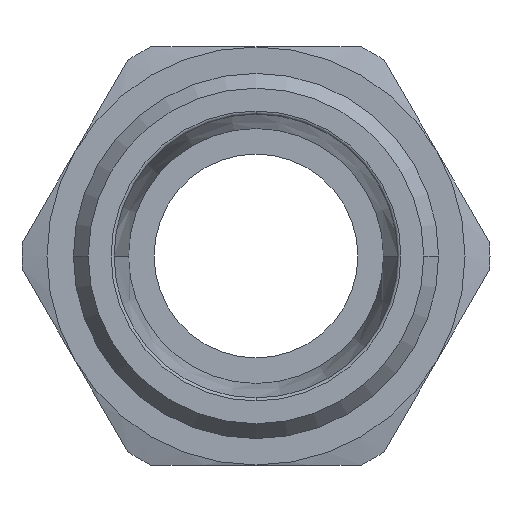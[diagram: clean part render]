
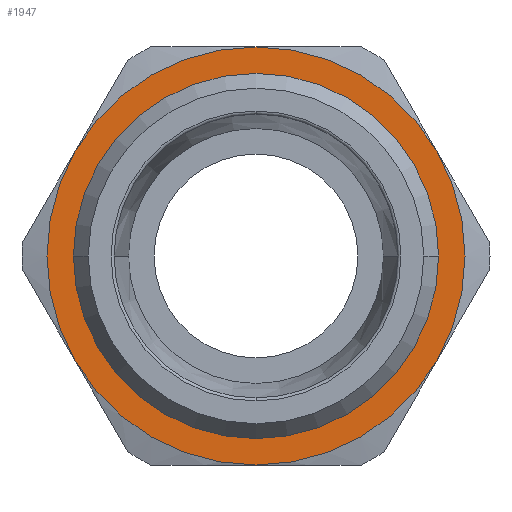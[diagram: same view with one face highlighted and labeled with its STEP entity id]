
A CAD part, left-side view. The second image highlights one B-rep face of the part: STEP entity #1947.
In plain terms, the highlighted planar face has unit normal (-1, 0, 0) as drawn and (0, 0, 1) by its records, which use the part's own axes.
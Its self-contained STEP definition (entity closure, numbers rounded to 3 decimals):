
#857=CARTESIAN_POINT('',(-17.65,0.,7.0));
#858=VERTEX_POINT('',#857);
#884=CARTESIAN_POINT('',(17.65,0.,7.0));
#885=VERTEX_POINT('',#884);
#893=CARTESIAN_POINT('',(0.,0.,7.0));
#894=DIRECTION('',(0.0,0.0,1.0));
#895=DIRECTION('',(-1.0,0.0,0.0));
#896=AXIS2_PLACEMENT_3D('',#893,#894,#895);
#897=CIRCLE('',#896,17.65);
#898=EDGE_CURVE('',#885,#858,#897,.T.);
#1827=CARTESIAN_POINT('',(0.,-17.65,7.));
#1828=VERTEX_POINT('',#1827);
#1829=CARTESIAN_POINT('',(0.,0.,7.0));
#1830=DIRECTION('',(0.0,0.0,1.0));
#1831=DIRECTION('',(-1.0,0.0,0.0));
#1832=AXIS2_PLACEMENT_3D('',#1829,#1830,#1831);
#1833=CIRCLE('',#1832,17.65);
#1834=EDGE_CURVE('',#858,#1828,#1833,.T.);
#1836=CARTESIAN_POINT('',(0.,0.,7.0));
#1837=DIRECTION('',(0.0,0.0,1.0));
#1838=DIRECTION('',(-1.0,0.0,0.0));
#1839=AXIS2_PLACEMENT_3D('',#1836,#1837,#1838);
#1840=CIRCLE('',#1839,17.65);
#1841=EDGE_CURVE('',#1828,#885,#1840,.T.);
#1881=CARTESIAN_POINT('',(0.0,0.,7.0));
#1882=DIRECTION('',(0.0,0.0,1.0));
#1883=DIRECTION('',(1.0,0.0,0.0));
#1884=AXIS2_PLACEMENT_3D('',#1881,#1882,#1883);
#1885=PLANE('',#1884);
#1886=CARTESIAN_POINT('',(10.25,-17.754,7.0));
#1887=VERTEX_POINT('',#1886);
#1888=CARTESIAN_POINT('',(20.5,0.0,7.0));
#1889=VERTEX_POINT('',#1888);
#1890=CARTESIAN_POINT('',(0.,0.0,7.0));
#1891=DIRECTION('',(0.0,0.0,1.0));
#1892=DIRECTION('',(1.0,0.0,0.0));
#1893=AXIS2_PLACEMENT_3D('',#1890,#1891,#1892);
#1894=CIRCLE('',#1893,20.5);
#1895=EDGE_CURVE('',#1887,#1889,#1894,.T.);
#1896=ORIENTED_EDGE('',*,*,#1895,.T.);
#1897=CARTESIAN_POINT('',(10.25,17.754,7.0));
#1898=VERTEX_POINT('',#1897);
#1899=CARTESIAN_POINT('',(0.,0.0,7.0));
#1900=DIRECTION('',(0.0,0.0,1.0));
#1901=DIRECTION('',(1.0,0.0,0.0));
#1902=AXIS2_PLACEMENT_3D('',#1899,#1900,#1901);
#1903=CIRCLE('',#1902,20.5);
#1904=EDGE_CURVE('',#1889,#1898,#1903,.T.);
#1905=ORIENTED_EDGE('',*,*,#1904,.T.);
#1906=CARTESIAN_POINT('',(-10.25,17.754,7.0));
#1907=VERTEX_POINT('',#1906);
#1908=CARTESIAN_POINT('',(0.,0.0,7.0));
#1909=DIRECTION('',(0.0,0.0,1.0));
#1910=DIRECTION('',(1.0,0.0,0.0));
#1911=AXIS2_PLACEMENT_3D('',#1908,#1909,#1910);
#1912=CIRCLE('',#1911,20.5);
#1913=EDGE_CURVE('',#1898,#1907,#1912,.T.);
#1914=ORIENTED_EDGE('',*,*,#1913,.T.);
#1915=CARTESIAN_POINT('',(-20.5,0.,7.0));
#1916=VERTEX_POINT('',#1915);
#1917=CARTESIAN_POINT('',(0.,0.0,7.0));
#1918=DIRECTION('',(0.0,0.0,1.0));
#1919=DIRECTION('',(1.0,0.0,0.0));
#1920=AXIS2_PLACEMENT_3D('',#1917,#1918,#1919);
#1921=CIRCLE('',#1920,20.5);
#1922=EDGE_CURVE('',#1907,#1916,#1921,.T.);
#1923=ORIENTED_EDGE('',*,*,#1922,.T.);
#1924=CARTESIAN_POINT('',(-10.25,-17.754,7.0));
#1925=VERTEX_POINT('',#1924);
#1926=CARTESIAN_POINT('',(0.,0.0,7.0));
#1927=DIRECTION('',(0.0,0.0,1.0));
#1928=DIRECTION('',(1.0,0.0,0.0));
#1929=AXIS2_PLACEMENT_3D('',#1926,#1927,#1928);
#1930=CIRCLE('',#1929,20.5);
#1931=EDGE_CURVE('',#1916,#1925,#1930,.T.);
#1932=ORIENTED_EDGE('',*,*,#1931,.T.);
#1933=CARTESIAN_POINT('',(0.,0.0,7.0));
#1934=DIRECTION('',(0.0,0.0,1.0));
#1935=DIRECTION('',(1.0,0.0,0.0));
#1936=AXIS2_PLACEMENT_3D('',#1933,#1934,#1935);
#1937=CIRCLE('',#1936,20.5);
#1938=EDGE_CURVE('',#1925,#1887,#1937,.T.);
#1939=ORIENTED_EDGE('',*,*,#1938,.T.);
#1940=EDGE_LOOP('',(#1896,#1905,#1914,#1923,#1932,#1939));
#1941=FACE_OUTER_BOUND('',#1940,.T.);
#1942=ORIENTED_EDGE('',*,*,#1841,.F.);
#1943=ORIENTED_EDGE('',*,*,#1834,.F.);
#1944=ORIENTED_EDGE('',*,*,#898,.F.);
#1945=EDGE_LOOP('',(#1942,#1943,#1944));
#1946=FACE_BOUND('',#1945,.T.);
#1947=ADVANCED_FACE('',(#1941,#1946),#1885,.T.);
